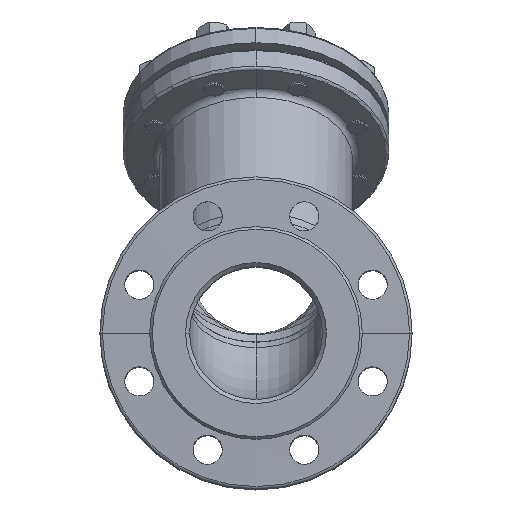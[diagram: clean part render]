
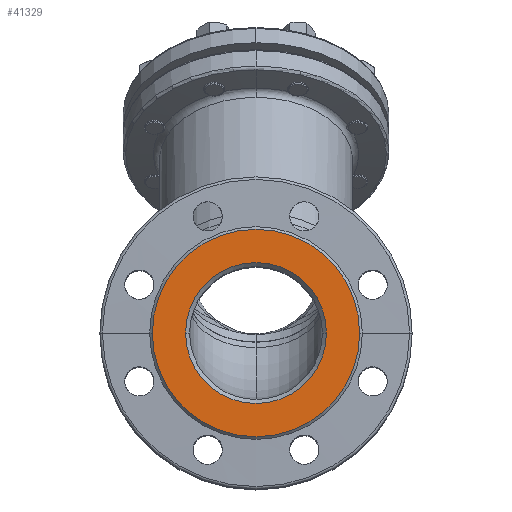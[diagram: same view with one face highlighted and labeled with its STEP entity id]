
A CAD part, top view. The second image highlights one B-rep face of the part: STEP entity #41329.
In plain terms, the highlighted planar face has unit normal (0, 0, 1).
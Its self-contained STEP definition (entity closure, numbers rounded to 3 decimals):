
#397 = CARTESIAN_POINT ( 'NONE',  ( 0., 0., 0. ) ) ;
#405 = DIRECTION ( 'NONE',  ( 0., 0., 1. ) ) ;
#406 = DIRECTION ( 'NONE',  ( 1., 0., 0. ) ) ;
#1757 = EDGE_LOOP ( 'NONE', ( #9434, #9437 ) ) ;
#1804 = EDGE_LOOP ( 'NONE', ( #9430, #9432 ) ) ;
#3509 = CARTESIAN_POINT ( 'NONE',  ( 0., 0., 0. ) ) ;
#3510 = DIRECTION ( 'NONE',  ( 0., 0., -1. ) ) ;
#3511 = DIRECTION ( 'NONE',  ( 1., 0., 0. ) ) ;
#9146 = CARTESIAN_POINT ( 'NONE',  ( -53., 0., 0. ) ) ;
#9430 = ORIENTED_EDGE ( 'NONE', *, *, #35006, .T. ) ;
#9432 = ORIENTED_EDGE ( 'NONE', *, *, #41750, .T. ) ;
#9434 = ORIENTED_EDGE ( 'NONE', *, *, #34403, .T. ) ;
#9437 = ORIENTED_EDGE ( 'NONE', *, *, #35095, .T. ) ;
#16893 = CARTESIAN_POINT ( 'NONE',  ( 78., 0., 0. ) ) ;
#19523 = VERTEX_POINT ( 'NONE', #9146 ) ;
#19550 = VERTEX_POINT ( 'NONE', #37442 ) ;
#19654 = VERTEX_POINT ( 'NONE', #37546 ) ;
#21997 = CIRCLE ( 'NONE', #42443, 53. ) ;
#27391 = PLANE ( 'NONE',  #42108 ) ;
#27395 = CARTESIAN_POINT ( 'NONE',  ( 0., 0., 0. ) ) ;
#27403 = DIRECTION ( 'NONE',  ( 0., 0., 1. ) ) ;
#27404 = DIRECTION ( 'NONE',  ( 1., 0., 0. ) ) ;
#31694 = CARTESIAN_POINT ( 'NONE',  ( 0., 0., 0. ) ) ;
#31695 = DIRECTION ( 'NONE',  ( 0., 0., -1. ) ) ;
#31696 = DIRECTION ( 'NONE',  ( 1., 0., 0. ) ) ;
#34403 = EDGE_CURVE ( 'NONE', #19654, #39033, #36782, .T. ) ;
#34564 = AXIS2_PLACEMENT_3D ( 'NONE', #35507, #35509, #35510 ) ;
#35006 = EDGE_CURVE ( 'NONE', #19550, #19523, #36944, .T. ) ;
#35095 = EDGE_CURVE ( 'NONE', #39033, #19654, #37051, .T. ) ;
#35507 = CARTESIAN_POINT ( 'NONE',  ( 0., 0., 0. ) ) ;
#35509 = DIRECTION ( 'NONE',  ( 0., 0., 1. ) ) ;
#35510 = DIRECTION ( 'NONE',  ( 1., 0., 0. ) ) ;
#36782 = CIRCLE ( 'NONE', #34564, 78. ) ;
#36944 = CIRCLE ( 'NONE', #41931, 53. ) ;
#37051 = CIRCLE ( 'NONE', #41982, 78. ) ;
#37284 = FACE_BOUND ( 'NONE', #1804, .T. ) ;
#37291 = FACE_OUTER_BOUND ( 'NONE', #1757, .T. ) ;
#37442 = CARTESIAN_POINT ( 'NONE',  ( 53., 0., 0. ) ) ;
#37546 = CARTESIAN_POINT ( 'NONE',  ( -78., 0., 0. ) ) ;
#39033 = VERTEX_POINT ( 'NONE', #16893 ) ;
#41329 = ADVANCED_FACE ( 'NONE', ( #37284, #37291 ), #27391, .T. ) ;
#41750 = EDGE_CURVE ( 'NONE', #19523, #19550, #21997, .T. ) ;
#41931 = AXIS2_PLACEMENT_3D ( 'NONE', #3509, #3510, #3511 ) ;
#41982 = AXIS2_PLACEMENT_3D ( 'NONE', #397, #405, #406 ) ;
#42108 = AXIS2_PLACEMENT_3D ( 'NONE', #27395, #27403, #27404 ) ;
#42443 = AXIS2_PLACEMENT_3D ( 'NONE', #31694, #31695, #31696 ) ;
